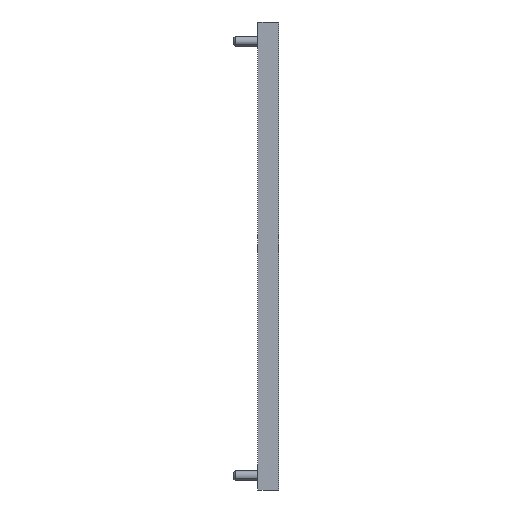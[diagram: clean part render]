
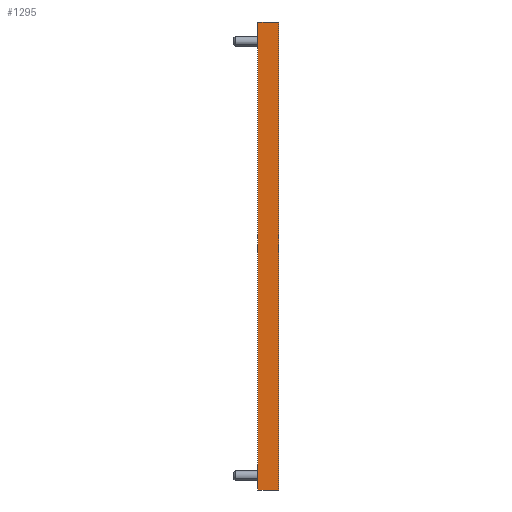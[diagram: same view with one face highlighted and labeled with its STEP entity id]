
A CAD part, left-side view. The second image highlights one B-rep face of the part: STEP entity #1295.
In plain terms, the highlighted planar face has unit normal (-1, 0, 0).
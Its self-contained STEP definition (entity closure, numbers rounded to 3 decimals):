
#65 = ORIENTED_EDGE ( 'NONE', *, *, #435, .T. ) ;
#107 = CARTESIAN_POINT ( 'NONE',  ( -8., 0., 279. ) ) ;
#139 = EDGE_CURVE ( 'NONE', #2258, #925, #1743, .T. ) ;
#199 = EDGE_CURVE ( 'NONE', #2740, #2492, #420, .T. ) ;
#263 = CARTESIAN_POINT ( 'NONE',  ( -8., 3.2, 0. ) ) ;
#271 = DIRECTION ( 'NONE',  ( 0., 0., 1. ) ) ;
#341 = CARTESIAN_POINT ( 'NONE',  ( -8., 0., 0. ) ) ;
#354 = VECTOR ( 'NONE', #457, 1000. ) ;
#419 = DIRECTION ( 'NONE',  ( 0., 1., 0. ) ) ;
#420 = LINE ( 'NONE', #2454, #877 ) ;
#426 = ORIENTED_EDGE ( 'NONE', *, *, #1435, .T. ) ;
#435 = EDGE_CURVE ( 'NONE', #827, #3122, #904, .T. ) ;
#457 = DIRECTION ( 'NONE',  ( 0., 0., 1. ) ) ;
#476 = ORIENTED_EDGE ( 'NONE', *, *, #2662, .T. ) ;
#599 = CARTESIAN_POINT ( 'NONE',  ( -8., 12.5, 0. ) ) ;
#629 = PLANE ( 'NONE',  #2943 ) ;
#632 = LINE ( 'NONE', #1383, #824 ) ;
#650 = ORIENTED_EDGE ( 'NONE', *, *, #139, .T. ) ;
#670 = VECTOR ( 'NONE', #1964, 1000. ) ;
#782 = CARTESIAN_POINT ( 'NONE',  ( -8., 0., 279. ) ) ;
#790 = LINE ( 'NONE', #2308, #1628 ) ;
#824 = VECTOR ( 'NONE', #2873, 1000. ) ;
#827 = VERTEX_POINT ( 'NONE', #599 ) ;
#848 = CARTESIAN_POINT ( 'NONE',  ( -8., 0., 0. ) ) ;
#877 = VECTOR ( 'NONE', #1446, 1000. ) ;
#904 = LINE ( 'NONE', #848, #2690 ) ;
#925 = VERTEX_POINT ( 'NONE', #782 ) ;
#983 = CARTESIAN_POINT ( 'NONE',  ( -8., 0., 279. ) ) ;
#993 = LINE ( 'NONE', #1488, #354 ) ;
#1049 = EDGE_CURVE ( 'NONE', #2235, #2258, #790, .T. ) ;
#1059 = DIRECTION ( 'NONE',  ( 0., -1., 0. ) ) ;
#1076 = CARTESIAN_POINT ( 'NONE',  ( -8., 12.5, 279. ) ) ;
#1295 = ADVANCED_FACE ( 'NONE', ( #1380 ), #629, .T. ) ;
#1373 = VERTEX_POINT ( 'NONE', #2575 ) ;
#1380 = FACE_OUTER_BOUND ( 'NONE', #1994, .T. ) ;
#1383 = CARTESIAN_POINT ( 'NONE',  ( -8., 0., 0. ) ) ;
#1420 = CARTESIAN_POINT ( 'NONE',  ( -8., 9.3, 0. ) ) ;
#1435 = EDGE_CURVE ( 'NONE', #925, #1373, #2920, .T. ) ;
#1446 = DIRECTION ( 'NONE',  ( 0., -1., 0. ) ) ;
#1461 = LINE ( 'NONE', #2666, #3105 ) ;
#1488 = CARTESIAN_POINT ( 'NONE',  ( -8., 12.5, 279. ) ) ;
#1628 = VECTOR ( 'NONE', #1059, 1000. ) ;
#1641 = DIRECTION ( 'NONE',  ( 0., 0., 1. ) ) ;
#1645 = ORIENTED_EDGE ( 'NONE', *, *, #199, .F. ) ;
#1743 = LINE ( 'NONE', #983, #3087 ) ;
#1749 = ORIENTED_EDGE ( 'NONE', *, *, #1049, .T. ) ;
#1875 = DIRECTION ( 'NONE',  ( -1., 0., 0. ) ) ;
#1884 = CARTESIAN_POINT ( 'NONE',  ( -8., 9.3, 279. ) ) ;
#1964 = DIRECTION ( 'NONE',  ( 0., 1., 0. ) ) ;
#1990 = EDGE_CURVE ( 'NONE', #827, #2740, #993, .T. ) ;
#1994 = EDGE_LOOP ( 'NONE', ( #2087, #65, #476, #1749, #650, #426, #2479, #1645 ) ) ;
#2087 = ORIENTED_EDGE ( 'NONE', *, *, #1990, .F. ) ;
#2235 = VERTEX_POINT ( 'NONE', #263 ) ;
#2258 = VERTEX_POINT ( 'NONE', #341 ) ;
#2308 = CARTESIAN_POINT ( 'NONE',  ( -8., 0., 0. ) ) ;
#2393 = DIRECTION ( 'NONE',  ( 0., -1., 0. ) ) ;
#2454 = CARTESIAN_POINT ( 'NONE',  ( -8., 12.5, 279. ) ) ;
#2479 = ORIENTED_EDGE ( 'NONE', *, *, #2537, .T. ) ;
#2492 = VERTEX_POINT ( 'NONE', #1884 ) ;
#2537 = EDGE_CURVE ( 'NONE', #1373, #2492, #1461, .T. ) ;
#2575 = CARTESIAN_POINT ( 'NONE',  ( -8., 3.2, 279. ) ) ;
#2662 = EDGE_CURVE ( 'NONE', #3122, #2235, #632, .T. ) ;
#2666 = CARTESIAN_POINT ( 'NONE',  ( -8., 0., 279. ) ) ;
#2690 = VECTOR ( 'NONE', #2393, 1000. ) ;
#2740 = VERTEX_POINT ( 'NONE', #1076 ) ;
#2873 = DIRECTION ( 'NONE',  ( 0., -1., 0. ) ) ;
#2920 = LINE ( 'NONE', #2934, #670 ) ;
#2934 = CARTESIAN_POINT ( 'NONE',  ( -8., 0., 279. ) ) ;
#2943 = AXIS2_PLACEMENT_3D ( 'NONE', #107, #1875, #1641 ) ;
#3087 = VECTOR ( 'NONE', #271, 1000. ) ;
#3105 = VECTOR ( 'NONE', #419, 1000. ) ;
#3122 = VERTEX_POINT ( 'NONE', #1420 ) ;
